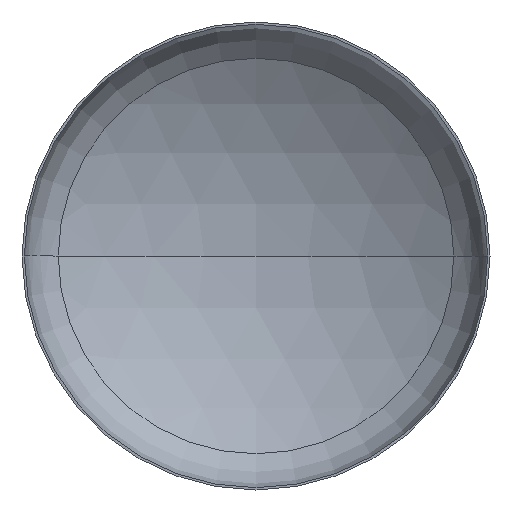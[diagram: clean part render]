
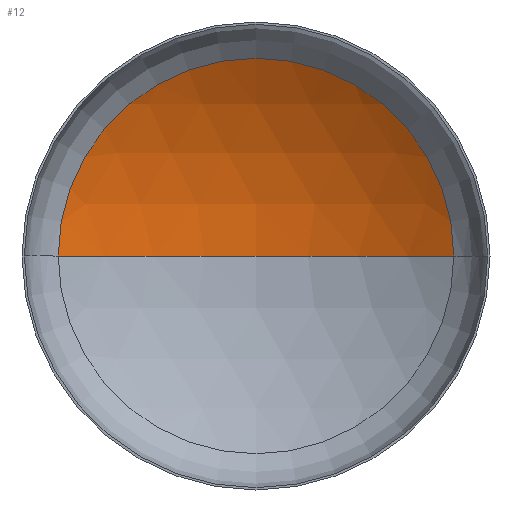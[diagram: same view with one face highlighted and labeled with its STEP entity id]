
A CAD part, front view. The second image highlights one B-rep face of the part: STEP entity #12.
In plain terms, the highlighted spherical face has radius 4400 mm.
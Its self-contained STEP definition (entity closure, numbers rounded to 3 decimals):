
#6 = CARTESIAN_POINT ( 'NONE',  ( -2324.388, 802.47, 0. ) ) ;
#12 = ADVANCED_FACE ( 'NONE', ( #283 ), #353, .F. ) ;
#15 = ORIENTED_EDGE ( 'NONE', *, *, #124, .T. ) ;
#40 = CARTESIAN_POINT ( 'NONE',  ( 0., -2933.467, 0. ) ) ;
#98 = VERTEX_POINT ( 'NONE', #246 ) ;
#104 = CARTESIAN_POINT ( 'NONE',  ( 0., 1466.533, 0. ) ) ;
#110 = EDGE_CURVE ( 'NONE', #98, #253, #242, .T. ) ;
#114 = DIRECTION ( 'NONE',  ( -1., 0., 0. ) ) ;
#124 = EDGE_CURVE ( 'NONE', #301, #98, #142, .T. ) ;
#127 = AXIS2_PLACEMENT_3D ( 'NONE', #40, #307, #174 ) ;
#133 = CIRCLE ( 'NONE', #127, 4400. ) ;
#139 = DIRECTION ( 'NONE',  ( 0., 0., -1. ) ) ;
#141 = EDGE_CURVE ( 'NONE', #301, #253, #133, .T. ) ;
#142 = CIRCLE ( 'NONE', #172, 4400. ) ;
#147 = CARTESIAN_POINT ( 'NONE',  ( 0., -2933.467, 0. ) ) ;
#172 = AXIS2_PLACEMENT_3D ( 'NONE', #147, #139, #114 ) ;
#174 = DIRECTION ( 'NONE',  ( 1., 0., 0. ) ) ;
#190 = CARTESIAN_POINT ( 'NONE',  ( 0., -2933.467, 0. ) ) ;
#203 = DIRECTION ( 'NONE',  ( -1., 0., 0. ) ) ;
#206 = DIRECTION ( 'NONE',  ( 0., 0., -1. ) ) ;
#207 = ORIENTED_EDGE ( 'NONE', *, *, #110, .T. ) ;
#210 = DIRECTION ( 'NONE',  ( 0., -1., 0. ) ) ;
#234 = DIRECTION ( 'NONE',  ( 1., 0., 0. ) ) ;
#242 = CIRCLE ( 'NONE', #271, 2324.388 ) ;
#244 = EDGE_LOOP ( 'NONE', ( #331, #15, #207 ) ) ;
#246 = CARTESIAN_POINT ( 'NONE',  ( 2324.388, 802.47, 0. ) ) ;
#252 = CARTESIAN_POINT ( 'NONE',  ( 0., 802.47, 0. ) ) ;
#253 = VERTEX_POINT ( 'NONE', #6 ) ;
#271 = AXIS2_PLACEMENT_3D ( 'NONE', #252, #210, #234 ) ;
#278 = AXIS2_PLACEMENT_3D ( 'NONE', #190, #206, #203 ) ;
#283 = FACE_OUTER_BOUND ( 'NONE', #244, .T. ) ;
#301 = VERTEX_POINT ( 'NONE', #104 ) ;
#307 = DIRECTION ( 'NONE',  ( 0., 0., 1. ) ) ;
#331 = ORIENTED_EDGE ( 'NONE', *, *, #141, .F. ) ;
#353 = SPHERICAL_SURFACE ( 'NONE', #278, 4400. ) ;
